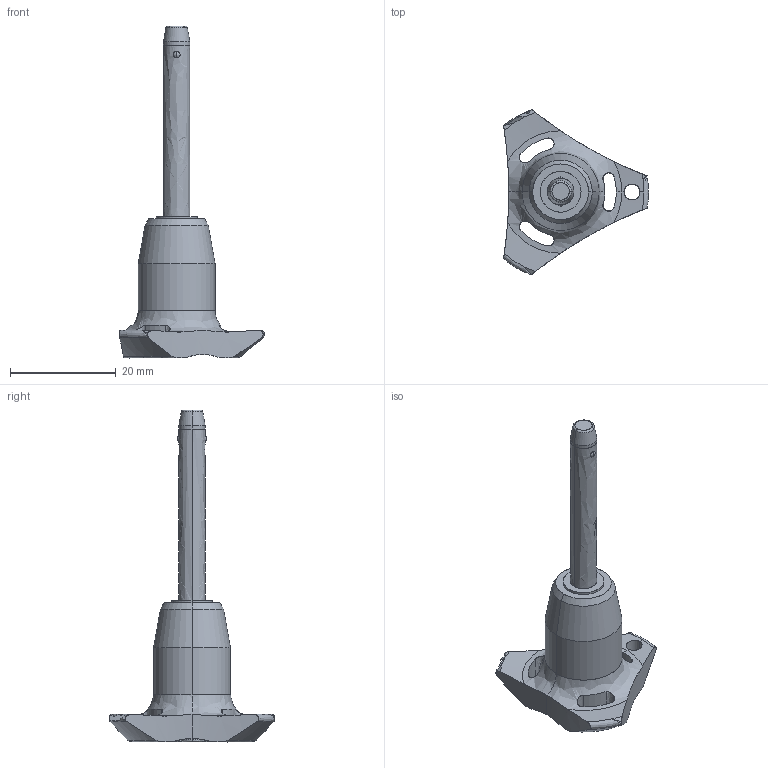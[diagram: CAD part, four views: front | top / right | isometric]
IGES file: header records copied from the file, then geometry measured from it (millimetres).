
Start section: SolidWorks IGES file using analytic representation for surfaces
Global section: file name: C:\Users\ianosborn\Desktop\QR1716_v2\QR1716_v2_20251114_IGES\QR1716.M05-030-T.igs; native system: SolidWorks 2019; preprocessor: SolidWorks 2019; author: IanOsborn; date: 251113.102421; units: millimetre
Bounding box: 27.4 x 31.31 x 62.7 mm (x, y, z)
Surface area: 2979.7 mm2 (no closed solid volume)
Topology: 0 solids, 0 shells, 69 faces, 1299 edges, 1280 vertices
Faces by surface type: revolution 52, bspline 17
